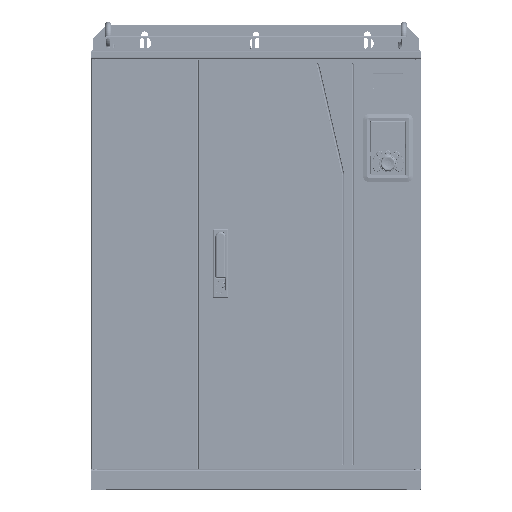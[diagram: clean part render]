
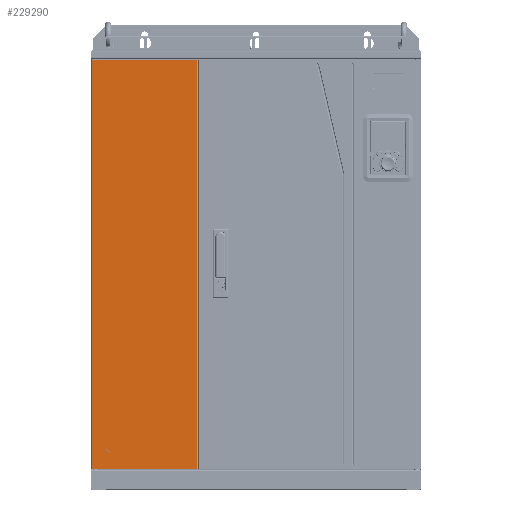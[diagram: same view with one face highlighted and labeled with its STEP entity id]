
A CAD part, top view. The second image highlights one B-rep face of the part: STEP entity #229290.
In plain terms, the highlighted planar face has unit normal (0, 0, 1) as drawn and (0, 1, 0) by its records, which use the part's own axes.
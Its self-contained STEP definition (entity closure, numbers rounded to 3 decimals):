
#227918=DIRECTION('',(0.,0.,1.));
#227919=VECTOR('',#227918,216.6);
#227920=CARTESIAN_POINT('',(-421.3,0.,-108.3));
#227921=LINE('',#227920,#227919);
#227990=DIRECTION('',(1.,0.,0.));
#227991=VECTOR('',#227990,842.6);
#227992=CARTESIAN_POINT('',(-421.3,0.,108.3));
#227993=LINE('',#227992,#227991);
#228036=DIRECTION('',(0.,0.,-1.));
#228037=VECTOR('',#228036,216.6);
#228038=CARTESIAN_POINT('',(421.3,0.,108.3));
#228039=LINE('',#228038,#228037);
#228284=DIRECTION('',(1.,0.,0.));
#228285=VECTOR('',#228284,842.6);
#228286=CARTESIAN_POINT('',(-421.3,0.,-108.3));
#228287=LINE('',#228286,#228285);
#229047=CARTESIAN_POINT('',(-421.3,0.,-108.3));
#229048=VERTEX_POINT('',#229047);
#229051=CARTESIAN_POINT('',(-421.3,0.,108.3));
#229052=VERTEX_POINT('',#229051);
#229079=CARTESIAN_POINT('',(421.3,0.,108.3));
#229080=VERTEX_POINT('',#229079);
#229083=CARTESIAN_POINT('',(421.3,0.,-108.3));
#229084=VERTEX_POINT('',#229083);
#229275=CARTESIAN_POINT('',(0.,0.,0.));
#229276=DIRECTION('',(0.,1.,0.));
#229277=DIRECTION('',(1.,0.,0.));
#229278=AXIS2_PLACEMENT_3D('',#229275,#229276,#229277);
#229279=PLANE('',#229278);
#229281=ORIENTED_EDGE('',*,*,#229280,.F.);
#229283=ORIENTED_EDGE('',*,*,#229282,.T.);
#229285=ORIENTED_EDGE('',*,*,#229284,.F.);
#229287=ORIENTED_EDGE('',*,*,#229286,.F.);
#229288=EDGE_LOOP('',(#229281,#229283,#229285,#229287));
#229289=FACE_OUTER_BOUND('',#229288,.F.);
#229280=EDGE_CURVE('',#229048,#229052,#227921,.T.);
#229282=EDGE_CURVE('',#229048,#229084,#228287,.T.);
#229284=EDGE_CURVE('',#229080,#229084,#228039,.T.);
#229286=EDGE_CURVE('',#229052,#229080,#227993,.T.);
#229290=ADVANCED_FACE('',(#229289),#229279,.T.);
